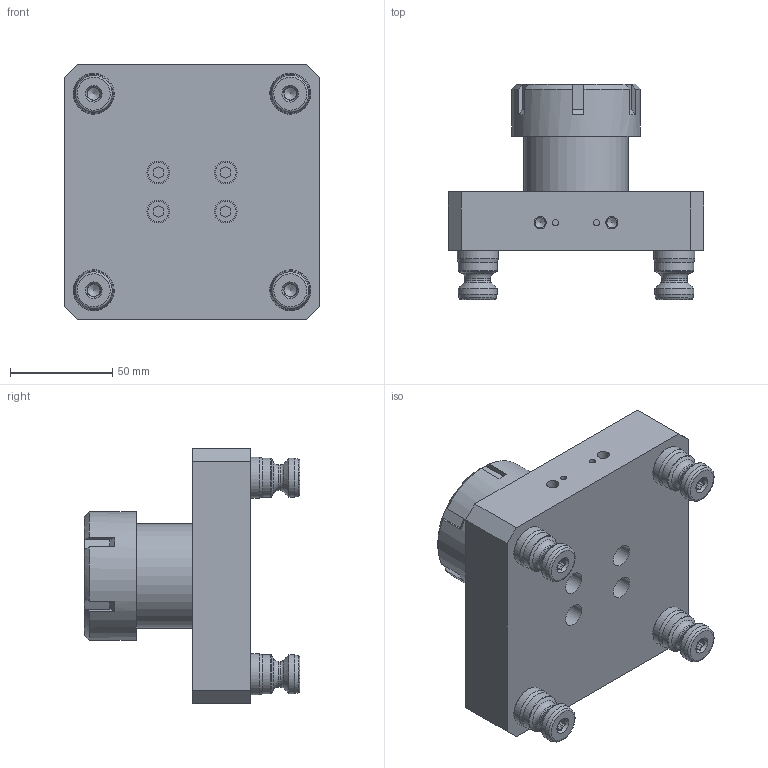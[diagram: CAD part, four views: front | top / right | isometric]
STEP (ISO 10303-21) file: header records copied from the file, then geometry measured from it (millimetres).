
FILE_DESCRIPTION (( 'STEP AP214' ), '1' );
FILE_NAME ('A96-CERX-40_WEBSITE.STEP', '2025-08-11T13:21:46', ( '' ), ( '' ), 'SwSTEP 2.0', 'SolidWorks 2025', '' );
FILE_SCHEMA (( 'AUTOMOTIVE_DESIGN' ));
Length unit declared in the file: millimetre
Products named in the file (11): D_PS20F_WEBSITE; A96-CERX-40_WEBSITE; D_PS20F_WEBSITE_HARD TURN; D_CER40_WEBSITE; A96-CERX-1_WEBSITE; D_LP250_WEBSITE_NO THREADS ; D_ER40 COLLET_WEBSITE_1"; D_91290A330_BLACK-OXIDE CLASS 12.9 SOCKET HEAD CAP SCREW_WEBSITE_91290A330; D_CER40-2_WEBSITE; D_M10-1.5 X 25mm.Set Screw_WEBSITE; D_CER40-1_WEBSITE_CER40
Assembly tree (17 placements, depth 3):
  A96-CERX-40_WEBSITE
    A96-CERX-1_WEBSITE
    D_CER40_WEBSITE
      D_CER40-1_WEBSITE_CER40
      D_CER40-2_WEBSITE
      D_LP250_WEBSITE_NO THREADS   x2
      D_ER40 COLLET_WEBSITE_1"
    D_PS20F_WEBSITE  x4
      D_PS20F_WEBSITE_HARD TURN
      D_M10-1.5 X 25mm.Set Screw_WEBSITE
    D_91290A330_BLACK-OXIDE CLASS 12.9 SOCKET HEAD CAP SCREW_WEBSITE_91290A330  x4
Bounding box: 125 x 105.28 x 125 mm (x, y, z)
Volume: 567374 mm3; surface area: 118628.9 mm2
Topology: 18 solids, 18 shells, 620 faces, 1473 edges, 933 vertices
Faces by surface type: plane 364, cylinder 116, cone 108, torus 32
Full cylindrical faces by diameter (mm): 3.03 x2, 3.759 x2, 4.039 x2, 4.803 x2, 4.826 x2, 5 x2, 5.41 x4, 5.774 x4, 6 x6, 6.147 x4, 6.35 x6, 6.363 x2, 6.756 x4, 8.5 x8, 10 x12, 11.112 x4, 12.497 x4, 15.992 x4, 16.02 x4, 19.012 x8, 19.972 x4, 22.225 x1, 27.94 x1, 38.1 x1, 40 x1, 47.46 x1, 50 x2, 50.8 x1, 50.838 x1, 62.992 x1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
Entity records: 11117 total; most frequent: CARTESIAN_POINT 2236, DIRECTION 1622, ORIENTED_EDGE 1500, EDGE_CURVE 750, AXIS2_PLACEMENT_3D 640, VERTEX_POINT 536, EDGE_LOOP 492, FACE_OUTER_BOUND 423
